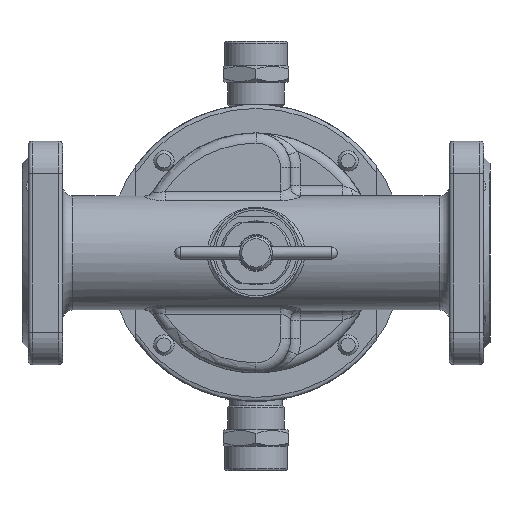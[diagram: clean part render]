
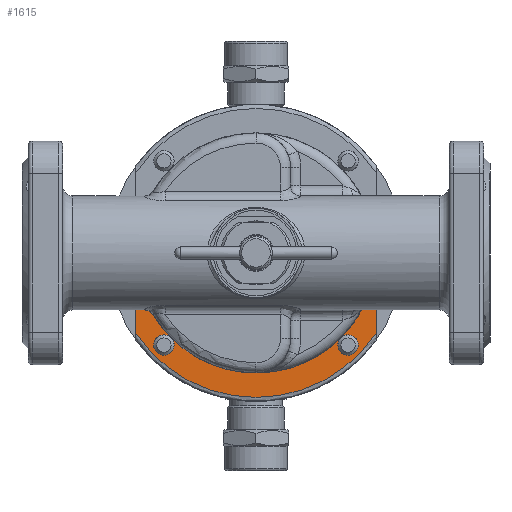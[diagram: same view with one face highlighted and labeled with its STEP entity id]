
A CAD part, front view. The second image highlights one B-rep face of the part: STEP entity #1615.
In plain terms, the highlighted planar face has unit normal (0, -1, 0).
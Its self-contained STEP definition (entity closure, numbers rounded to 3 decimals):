
#1615=ADVANCED_FACE('',(#17258),#17260,.F.);
#17258=FACE_OUTER_BOUND('',#17259,.T.);
#17259=EDGE_LOOP('',(#29634,#29635,#29636,#29637,#29638,#29639,#29640,#29641,#29642,
#29643));
#17260=PLANE('',#17261);
#17261=AXIS2_PLACEMENT_3D('',#17262,#17263,#17264);
#17262=CARTESIAN_POINT('',(0.,39.5,0.));
#17263=DIRECTION('',(0.,1.,0.));
#17264=DIRECTION('',(-1.,0.,0.));
#29634=ORIENTED_EDGE('',*,*,#37014,.F.);
#29635=ORIENTED_EDGE('',*,*,#37015,.F.);
#29636=ORIENTED_EDGE('',*,*,#37016,.F.);
#29637=ORIENTED_EDGE('',*,*,#36957,.F.);
#29638=ORIENTED_EDGE('',*,*,#37017,.F.);
#29639=ORIENTED_EDGE('',*,*,#36951,.F.);
#29640=ORIENTED_EDGE('',*,*,#37018,.F.);
#29641=ORIENTED_EDGE('',*,*,#37019,.F.);
#29642=ORIENTED_EDGE('',*,*,#37020,.F.);
#29643=ORIENTED_EDGE('',*,*,#37021,.F.);
#36951=EDGE_CURVE('',#44629,#44631,#44632,.T.);
#36957=EDGE_CURVE('',#44639,#44641,#44642,.T.);
#37014=EDGE_CURVE('',#44737,#44738,#44739,.T.);
#37015=EDGE_CURVE('',#44738,#44737,#44740,.T.);
#37016=EDGE_CURVE('',#44641,#44738,#44741,.T.);
#37017=EDGE_CURVE('',#44631,#44639,#44742,.T.);
#37018=EDGE_CURVE('',#44743,#44629,#44744,.T.);
#37019=EDGE_CURVE('',#44745,#44743,#44746,.T.);
#37020=EDGE_CURVE('',#44743,#44745,#44747,.T.);
#37021=EDGE_CURVE('',#44738,#44743,#44748,.T.);
#44629=VERTEX_POINT('',#68140);
#44631=VERTEX_POINT('',#68144);
#44632=LINE('',#68145,#68146);
#44639=VERTEX_POINT('',#68215);
#44641=VERTEX_POINT('',#68271);
#44642=LINE('',#68272,#68273);
#44737=VERTEX_POINT('',#69212);
#44738=VERTEX_POINT('',#69213);
#44739=CIRCLE('',#69214,5.);
#44740=CIRCLE('',#69218,5.);
#44741=CIRCLE('',#69222,59.);
#44742=CIRCLE('',#69226,71.);
#44743=VERTEX_POINT('',#69230);
#44744=CIRCLE('',#69231,59.);
#44745=VERTEX_POINT('',#69235);
#44746=CIRCLE('',#69236,5.);
#44747=CIRCLE('',#69240,5.);
#44748=CIRCLE('',#69244,59.);
#68140=CARTESIAN_POINT('',(59.,39.5,0.));
#68144=CARTESIAN_POINT('',(59.,39.5,-39.497));
#68145=CARTESIAN_POINT('',(59.,39.5,0.));
#68146=VECTOR('',#68147,1.);
#68147=DIRECTION('',(0.,0.,-1.));
#68215=CARTESIAN_POINT('',(-59.,39.5,-39.497));
#68271=CARTESIAN_POINT('',(-59.,39.5,0.));
#68272=CARTESIAN_POINT('',(-59.,39.5,-39.497));
#68273=VECTOR('',#68274,1.);
#68274=DIRECTION('',(0.,0.,1.));
#69212=CARTESIAN_POINT('',(-45.255,39.5,-50.255));
#69213=CARTESIAN_POINT('',(-41.719,39.5,-41.719));
#69214=AXIS2_PLACEMENT_3D('',#69215,#69216,#69217);
#69215=CARTESIAN_POINT('',(-45.255,39.5,-45.255));
#69216=DIRECTION('',(0.,-1.,0.));
#69217=DIRECTION('',(0.,0.,-1.));
#69218=AXIS2_PLACEMENT_3D('',#69219,#69220,#69221);
#69219=CARTESIAN_POINT('',(-45.255,39.5,-45.255));
#69220=DIRECTION('',(0.,-1.,0.));
#69221=DIRECTION('',(0.707,0.,0.707));
#69222=AXIS2_PLACEMENT_3D('',#69223,#69224,#69225);
#69223=CARTESIAN_POINT('',(0.,39.5,0.));
#69224=DIRECTION('',(0.,-1.,0.));
#69225=DIRECTION('',(-1.,0.,0.));
#69226=AXIS2_PLACEMENT_3D('',#69227,#69228,#69229);
#69227=CARTESIAN_POINT('',(0.,39.5,0.));
#69228=DIRECTION('',(0.,1.,0.));
#69229=DIRECTION('',(0.831,0.,-0.556));
#69230=CARTESIAN_POINT('',(41.719,39.5,-41.719));
#69231=AXIS2_PLACEMENT_3D('',#69232,#69233,#69234);
#69232=CARTESIAN_POINT('',(0.,39.5,0.));
#69233=DIRECTION('',(0.,-1.,0.));
#69234=DIRECTION('',(0.707,0.,-0.707));
#69235=CARTESIAN_POINT('',(50.255,39.5,-45.255));
#69236=AXIS2_PLACEMENT_3D('',#69237,#69238,#69239);
#69237=CARTESIAN_POINT('',(45.255,39.5,-45.255));
#69238=DIRECTION('',(0.,-1.,0.));
#69239=DIRECTION('',(1.,0.,0.));
#69240=AXIS2_PLACEMENT_3D('',#69241,#69242,#69243);
#69241=CARTESIAN_POINT('',(45.255,39.5,-45.255));
#69242=DIRECTION('',(0.,-1.,0.));
#69243=DIRECTION('',(-0.707,0.,0.707));
#69244=AXIS2_PLACEMENT_3D('',#69245,#69246,#69247);
#69245=CARTESIAN_POINT('',(0.,39.5,0.));
#69246=DIRECTION('',(0.,-1.,0.));
#69247=DIRECTION('',(-0.707,0.,-0.707));
